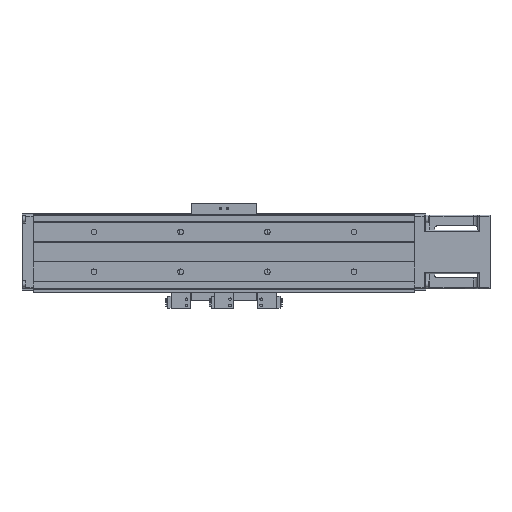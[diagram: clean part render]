
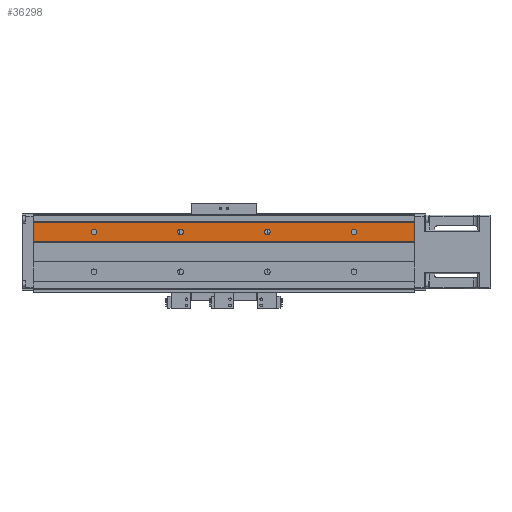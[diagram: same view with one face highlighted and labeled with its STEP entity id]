
A CAD part, front view. The second image highlights one B-rep face of the part: STEP entity #36298.
In plain terms, the highlighted planar face has unit normal (0, -1, 0).
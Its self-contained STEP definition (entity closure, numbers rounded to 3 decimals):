
#432 = AXIS2_PLACEMENT_3D ( 'NONE', #5665, #27547, #11956 ) ;
#1274 = DIRECTION ( 'NONE',  ( 0., 1., 0. ) ) ;
#1671 = CARTESIAN_POINT ( 'NONE',  ( -270., -32., 34. ) ) ;
#2646 = CARTESIAN_POINT ( 'NONE',  ( -270., -32., 5.95 ) ) ;
#2873 = CARTESIAN_POINT ( 'NONE',  ( 170., -32., -33.6 ) ) ;
#3144 = PLANE ( 'NONE',  #38054 ) ;
#4014 = DIRECTION ( 'NONE',  ( 0., 0., -1. ) ) ;
#4800 = CIRCLE ( 'NONE', #432, 3.3 ) ;
#4879 = CIRCLE ( 'NONE', #26335, 3.3 ) ;
#5207 = CARTESIAN_POINT ( 'NONE',  ( -570., -32., 11.5 ) ) ;
#5665 = CARTESIAN_POINT ( 'NONE',  ( 100., -32., 23. ) ) ;
#6455 = CIRCLE ( 'NONE', #12280, 3.3 ) ;
#6615 = ORIENTED_EDGE ( 'NONE', *, *, #28113, .T. ) ;
#6655 = EDGE_LOOP ( 'NONE', ( #33979, #30662 ) ) ;
#7016 = LINE ( 'NONE', #17256, #37371 ) ;
#7761 = DIRECTION ( 'NONE',  ( 0., 1., 0. ) ) ;
#7885 = CARTESIAN_POINT ( 'NONE',  ( -100., -32., 19.7 ) ) ;
#8259 = CARTESIAN_POINT ( 'NONE',  ( 170., -32., 34. ) ) ;
#8366 = DIRECTION ( 'NONE',  ( 0., 1., 0. ) ) ;
#8637 = DIRECTION ( 'NONE',  ( 0., 0., -1. ) ) ;
#8641 = EDGE_CURVE ( 'NONE', #13249, #14724, #4800, .T. ) ;
#8843 = CARTESIAN_POINT ( 'NONE',  ( -100., -32., 23. ) ) ;
#10049 = VERTEX_POINT ( 'NONE', #11161 ) ;
#11050 = CARTESIAN_POINT ( 'NONE',  ( 0., -32., 23. ) ) ;
#11161 = CARTESIAN_POINT ( 'NONE',  ( 0., -32., 19.7 ) ) ;
#11472 = CIRCLE ( 'NONE', #38991, 3.3 ) ;
#11748 = LINE ( 'NONE', #33137, #34761 ) ;
#11956 = DIRECTION ( 'NONE',  ( 0., 0., -1. ) ) ;
#12280 = AXIS2_PLACEMENT_3D ( 'NONE', #16092, #16507, #35258 ) ;
#12597 = DIRECTION ( 'NONE',  ( -1., 0., 0. ) ) ;
#13249 = VERTEX_POINT ( 'NONE', #31914 ) ;
#13344 = VERTEX_POINT ( 'NONE', #22742 ) ;
#13411 = VERTEX_POINT ( 'NONE', #7885 ) ;
#14046 = FACE_BOUND ( 'NONE', #6655, .T. ) ;
#14724 = VERTEX_POINT ( 'NONE', #27728 ) ;
#15436 = EDGE_CURVE ( 'NONE', #17473, #13344, #38062, .T. ) ;
#15534 = FACE_BOUND ( 'NONE', #26114, .T. ) ;
#15724 = EDGE_CURVE ( 'NONE', #14724, #13249, #32215, .T. ) ;
#16092 = CARTESIAN_POINT ( 'NONE',  ( -100., -32., 23. ) ) ;
#16507 = DIRECTION ( 'NONE',  ( 0., 1., 0. ) ) ;
#16989 = DIRECTION ( 'NONE',  ( 0., 0., -1. ) ) ;
#17115 = LINE ( 'NONE', #5207, #24973 ) ;
#17256 = CARTESIAN_POINT ( 'NONE',  ( -570., -32., 34. ) ) ;
#17473 = VERTEX_POINT ( 'NONE', #21790 ) ;
#17940 = VERTEX_POINT ( 'NONE', #36557 ) ;
#18437 = ORIENTED_EDGE ( 'NONE', *, *, #22245, .T. ) ;
#18573 = ORIENTED_EDGE ( 'NONE', *, *, #15724, .T. ) ;
#18766 = CIRCLE ( 'NONE', #24614, 3.3 ) ;
#19458 = AXIS2_PLACEMENT_3D ( 'NONE', #23010, #22448, #4014 ) ;
#20801 = ORIENTED_EDGE ( 'NONE', *, *, #8641, .T. ) ;
#21790 = CARTESIAN_POINT ( 'NONE',  ( -200., -32., 19.7 ) ) ;
#22100 = VERTEX_POINT ( 'NONE', #1671 ) ;
#22245 = EDGE_CURVE ( 'NONE', #39787, #35069, #17115, .T. ) ;
#22267 = EDGE_CURVE ( 'NONE', #26081, #10049, #4879, .T. ) ;
#22448 = DIRECTION ( 'NONE',  ( 0., 1., 0. ) ) ;
#22693 = DIRECTION ( 'NONE',  ( 1., 0., 0. ) ) ;
#22742 = CARTESIAN_POINT ( 'NONE',  ( -200., -32., 26.3 ) ) ;
#22848 = FACE_BOUND ( 'NONE', #36822, .T. ) ;
#23010 = CARTESIAN_POINT ( 'NONE',  ( -200., -32., 23. ) ) ;
#24027 = ORIENTED_EDGE ( 'NONE', *, *, #31970, .F. ) ;
#24348 = CARTESIAN_POINT ( 'NONE',  ( 0., -32., 23. ) ) ;
#24614 = AXIS2_PLACEMENT_3D ( 'NONE', #11050, #7761, #39611 ) ;
#24973 = VECTOR ( 'NONE', #31052, 1000. ) ;
#25254 = ORIENTED_EDGE ( 'NONE', *, *, #31560, .T. ) ;
#26081 = VERTEX_POINT ( 'NONE', #31377 ) ;
#26114 = EDGE_LOOP ( 'NONE', ( #18573, #20801 ) ) ;
#26335 = AXIS2_PLACEMENT_3D ( 'NONE', #24348, #30637, #40324 ) ;
#27286 = DIRECTION ( 'NONE',  ( 0., 0., -1. ) ) ;
#27547 = DIRECTION ( 'NONE',  ( 0., 1., 0. ) ) ;
#27728 = CARTESIAN_POINT ( 'NONE',  ( 100., -32., 19.7 ) ) ;
#28113 = EDGE_CURVE ( 'NONE', #22100, #39787, #35307, .T. ) ;
#28178 = ORIENTED_EDGE ( 'NONE', *, *, #34308, .T. ) ;
#29150 = EDGE_LOOP ( 'NONE', ( #38210, #28178 ) ) ;
#29412 = CARTESIAN_POINT ( 'NONE',  ( -270., -32., 11.5 ) ) ;
#29712 = FACE_BOUND ( 'NONE', #29150, .T. ) ;
#30351 = CIRCLE ( 'NONE', #33830, 3.3 ) ;
#30637 = DIRECTION ( 'NONE',  ( 0., 1., 0. ) ) ;
#30662 = ORIENTED_EDGE ( 'NONE', *, *, #22267, .T. ) ;
#31052 = DIRECTION ( 'NONE',  ( 1., 0., 0. ) ) ;
#31329 = DIRECTION ( 'NONE',  ( 0., -1., 0. ) ) ;
#31377 = CARTESIAN_POINT ( 'NONE',  ( 0., -32., 26.3 ) ) ;
#31560 = EDGE_CURVE ( 'NONE', #17940, #13411, #11472, .T. ) ;
#31914 = CARTESIAN_POINT ( 'NONE',  ( 100., -32., 26.3 ) ) ;
#31970 = EDGE_CURVE ( 'NONE', #22100, #38479, #7016, .T. ) ;
#32215 = CIRCLE ( 'NONE', #35249, 3.3 ) ;
#32570 = EDGE_CURVE ( 'NONE', #10049, #26081, #18766, .T. ) ;
#32713 = EDGE_LOOP ( 'NONE', ( #6615, #18437, #34043, #24027 ) ) ;
#33137 = CARTESIAN_POINT ( 'NONE',  ( 170., -32., 11.5 ) ) ;
#33745 = DIRECTION ( 'NONE',  ( 0., 0., -1. ) ) ;
#33830 = AXIS2_PLACEMENT_3D ( 'NONE', #38464, #1274, #16989 ) ;
#33979 = ORIENTED_EDGE ( 'NONE', *, *, #32570, .T. ) ;
#34043 = ORIENTED_EDGE ( 'NONE', *, *, #34435, .T. ) ;
#34150 = DIRECTION ( 'NONE',  ( 0., 1., 0. ) ) ;
#34308 = EDGE_CURVE ( 'NONE', #13344, #17473, #30351, .T. ) ;
#34435 = EDGE_CURVE ( 'NONE', #35069, #38479, #11748, .T. ) ;
#34761 = VECTOR ( 'NONE', #36410, 1000. ) ;
#35069 = VERTEX_POINT ( 'NONE', #38956 ) ;
#35249 = AXIS2_PLACEMENT_3D ( 'NONE', #39425, #8366, #8637 ) ;
#35258 = DIRECTION ( 'NONE',  ( 0., 0., -1. ) ) ;
#35307 = LINE ( 'NONE', #2646, #40128 ) ;
#36298 = ADVANCED_FACE ( 'NONE', ( #39966, #29712, #22848, #14046, #15534 ), #3144, .T. ) ;
#36410 = DIRECTION ( 'NONE',  ( 0., 0., 1. ) ) ;
#36557 = CARTESIAN_POINT ( 'NONE',  ( -100., -32., 26.3 ) ) ;
#36822 = EDGE_LOOP ( 'NONE', ( #39623, #25254 ) ) ;
#37371 = VECTOR ( 'NONE', #22693, 1000. ) ;
#38054 = AXIS2_PLACEMENT_3D ( 'NONE', #2873, #31329, #12597 ) ;
#38062 = CIRCLE ( 'NONE', #19458, 3.3 ) ;
#38210 = ORIENTED_EDGE ( 'NONE', *, *, #15436, .T. ) ;
#38464 = CARTESIAN_POINT ( 'NONE',  ( -200., -32., 23. ) ) ;
#38479 = VERTEX_POINT ( 'NONE', #8259 ) ;
#38956 = CARTESIAN_POINT ( 'NONE',  ( 170., -32., 11.5 ) ) ;
#38991 = AXIS2_PLACEMENT_3D ( 'NONE', #8843, #34150, #33745 ) ;
#39425 = CARTESIAN_POINT ( 'NONE',  ( 100., -32., 23. ) ) ;
#39611 = DIRECTION ( 'NONE',  ( 0., 0., -1. ) ) ;
#39623 = ORIENTED_EDGE ( 'NONE', *, *, #40279, .T. ) ;
#39787 = VERTEX_POINT ( 'NONE', #29412 ) ;
#39966 = FACE_OUTER_BOUND ( 'NONE', #32713, .T. ) ;
#40128 = VECTOR ( 'NONE', #27286, 1000. ) ;
#40279 = EDGE_CURVE ( 'NONE', #13411, #17940, #6455, .T. ) ;
#40324 = DIRECTION ( 'NONE',  ( 0., 0., -1. ) ) ;
